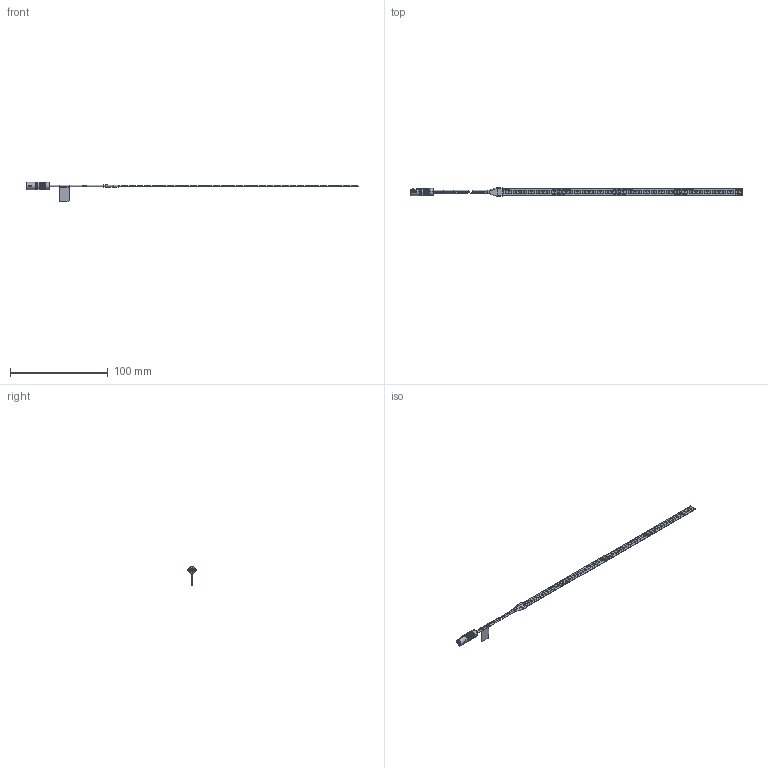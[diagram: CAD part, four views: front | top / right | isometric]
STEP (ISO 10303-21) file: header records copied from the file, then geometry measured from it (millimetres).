
FILE_DESCRIPTION (( 'STEP AP203' ), '1' );
FILE_NAME ('VersaInside_24VDC_1200_mw_24.STEP', '2024-11-27T12:43:08', ( '' ), ( '' ), 'SwSTEP 2.0', 'SolidWorks 2023', '' );
FILE_SCHEMA (( 'CONFIG_CONTROL_DESIGN' ));
Length unit declared in the file: millimetre
Products named in the file (5): 5604631_Schrumpf_li2; 5604631; 5600602_Aufkleber_Ansicht; VersaInside_24VDC_1200_mw_24; MP2_DMA_Flex_Leuchte_gebr.
Assembly tree (6 placements, depth 2):
  VersaInside_24VDC_1200_mw_24
    5604631_Schrumpf_li2
    MP2_DMA_Flex_Leuchte_gebr.
    5604631  x3
    5600602_Aufkleber_Ansicht
Bounding box: 339 x 9 x 19.65 mm (x, y, z)
Volume: 2550.2 mm3; surface area: 7480.1 mm2
Topology: 11 solids, 11 shells, 1740 faces, 4560 edges, 3035 vertices
Faces by surface type: plane 1208, cylinder 406, bspline 110, cone 8, torus 8
Entity records: 34295 total; most frequent: CARTESIAN_POINT 9040, ORIENTED_EDGE 5204, DIRECTION 4930, EDGE_CURVE 2602, LINE 1892, VECTOR 1892, VERTEX_POINT 1731, AXIS2_PLACEMENT_3D 1519
